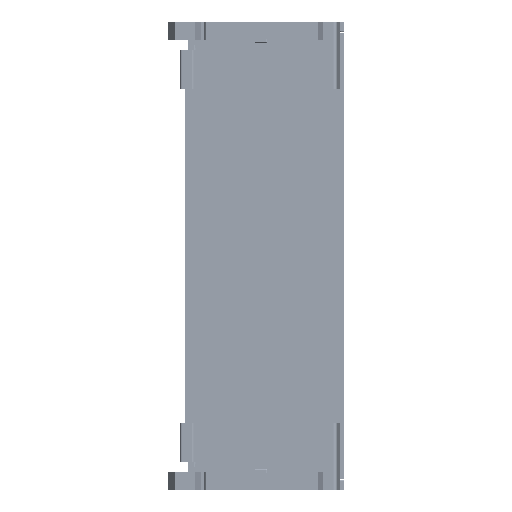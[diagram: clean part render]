
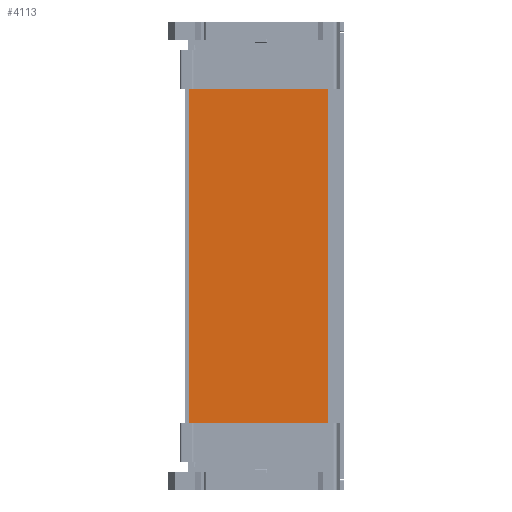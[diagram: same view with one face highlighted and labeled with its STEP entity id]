
A CAD part, front view. The second image highlights one B-rep face of the part: STEP entity #4113.
In plain terms, the highlighted planar face has unit normal (0, -1, 0).
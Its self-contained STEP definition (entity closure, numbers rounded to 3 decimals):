
#4113=ADVANCED_FACE('',(#7179),#5887,.T.);
#5887=PLANE('',#34529);
#7179=FACE_OUTER_BOUND('',#8849,.T.);
#8849=EDGE_LOOP('',(#13263,#13264,#13265,#13266));
#13263=ORIENTED_EDGE('',*,*,#24538,.F.);
#13264=ORIENTED_EDGE('',*,*,#24560,.F.);
#13265=ORIENTED_EDGE('',*,*,#24554,.F.);
#13266=ORIENTED_EDGE('',*,*,#24522,.T.);
#20913=VERTEX_POINT('',#48941);
#20914=VERTEX_POINT('',#48943);
#20925=VERTEX_POINT('',#48973);
#20938=VERTEX_POINT('',#49007);
#24522=EDGE_CURVE('',#20914,#20913,#28997,.T.);
#24538=EDGE_CURVE('',#20925,#20913,#29013,.T.);
#24554=EDGE_CURVE('',#20914,#20938,#29029,.T.);
#24560=EDGE_CURVE('',#20938,#20925,#29035,.T.);
#28997=LINE('',#48942,#31937);
#29013=LINE('',#48974,#31953);
#29029=LINE('',#49006,#31969);
#29035=LINE('',#49018,#31975);
#31937=VECTOR('',#38877,1.);
#31953=VECTOR('',#38901,1.);
#31969=VECTOR('',#38925,1.);
#31975=VECTOR('',#38933,1.);
#34529=AXIS2_PLACEMENT_3D('',#49019,#38934,#38935);
#38877=DIRECTION('',(-1.,0.,0.));
#38901=DIRECTION('',(0.,0.,1.));
#38925=DIRECTION('',(0.,0.,-1.));
#38933=DIRECTION('',(-1.,0.,0.));
#38934=DIRECTION('',(0.,-1.,0.));
#38935=DIRECTION('',(-1.,0.,0.));
#48941=CARTESIAN_POINT('',(18.582,-11.661,190.8));
#48942=CARTESIAN_POINT('',(47.132,-11.661,190.8));
#48943=CARTESIAN_POINT('',(56.982,-11.661,190.8));
#48973=CARTESIAN_POINT('',(18.582,-11.661,98.2));
#48974=CARTESIAN_POINT('',(18.582,-11.661,147.7));
#49006=CARTESIAN_POINT('',(56.982,-11.661,147.7));
#49007=CARTESIAN_POINT('',(56.982,-11.661,98.2));
#49018=CARTESIAN_POINT('',(47.132,-11.661,98.2));
#49019=CARTESIAN_POINT('',(28.632,-11.661,147.7));
